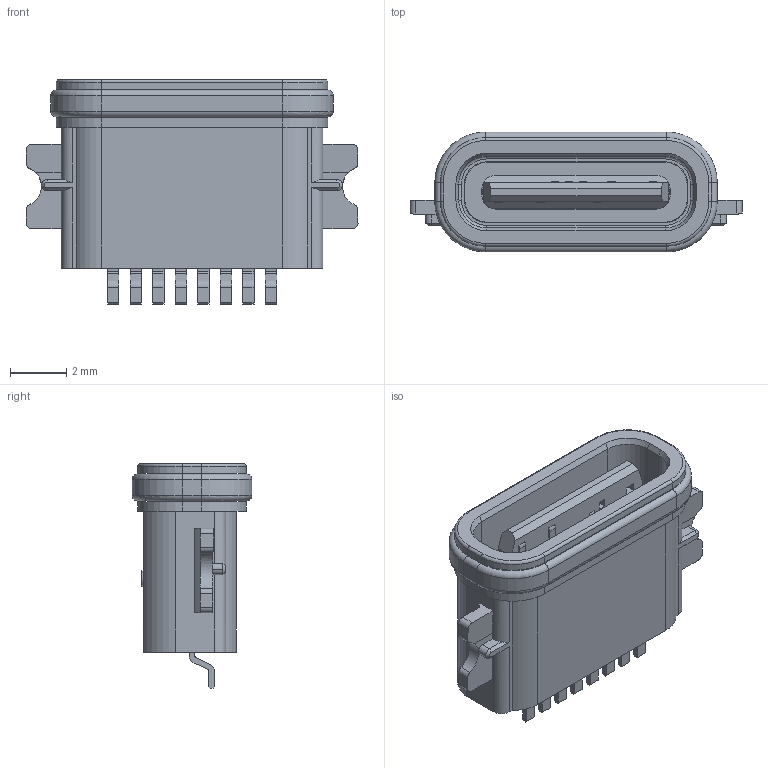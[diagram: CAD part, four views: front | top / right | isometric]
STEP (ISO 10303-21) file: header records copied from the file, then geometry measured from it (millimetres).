
FILE_DESCRIPTION (( 'STEP AP203' ), '1' );
FILE_NAME ('GT-USB-7100A.stp', '2023-06-01T03:41:26', ( '' ), ( '' ), 'SwSTEP 2.0', 'SolidWorks 2023', '' );
FILE_SCHEMA (( 'CONFIG_CONTROL_DESIGN' ));
Length unit declared in the file: millimetre
Products named in the file (1): GT-USB-7100A
Bounding box: 11.8 x 4.26 x 7.99 mm (x, y, z)
Volume: 141.2 mm3; surface area: 559.6 mm2
Topology: 2 solids, 3 shells, 1008 faces, 2715 edges, 1789 vertices
Faces by surface type: plane 757, cylinder 145, bspline 74, torus 16, cone 16
Entity records: 34948 total; most frequent: CARTESIAN_POINT 9886, ORIENTED_EDGE 5430, DIRECTION 4698, EDGE_CURVE 2715, VECTOR 2208, LINE 2208, VERTEX_POINT 1789, AXIS2_PLACEMENT_3D 1245
